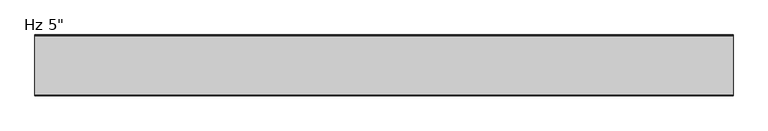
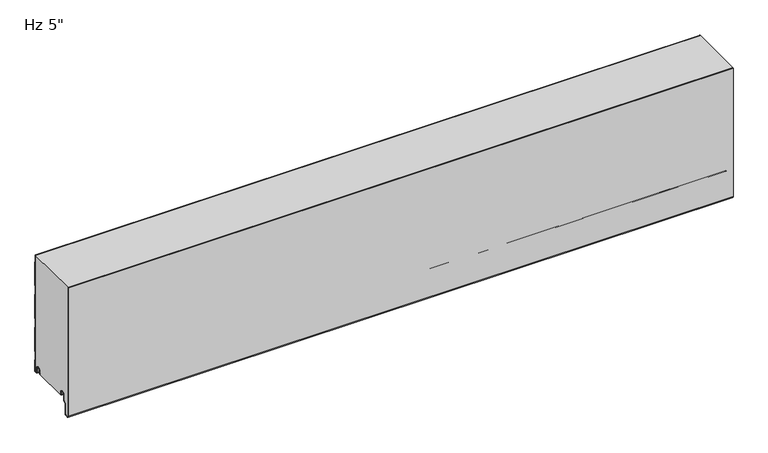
"""IFC4 building model written with IfcOpenShell, lengths in millimetres: plate geometry."""

from ifc_helpers import new_model, si_unit, point, frame, frame_2d, origin, place, context, project, spatial, polyline, circle_curve, trimmed, segment, composite_curve, outline, extrude, source, transform, mapped, element, save
from ifc_brep_helpers import plane_surface, cylinder_surface, revolved_surface, advanced_brep


def plate_4ed21dd5(model_context):
    return source(origin(), model_context, "Body", "SolidModel", [
        advanced_brep(
        [(-730.0, -17.0015159, 2.0313088), (-730.0, -18.0015191, 1.0313116), (-730.0, -19.0015105, 2.0313088), (-730.0, -19.0015105, 6.0315125), (-730.0, -18.0015159, 6.0315125), (-730.0, -18.0015159, 8.7237223), (-730.0, -14.7015202, 12.023718), (-730.0, -10.301529, 12.023718), (-730.0, -7.0015335, 8.7237225), (-730.0, -7.0015335, -1.6962564), (-730.0, -5.2315393, -3.4662506), (-730.0, -0.9999916, -3.4662506), (-730.0, -0.9999916, 21.034026), (-730.0, -2.2002307, 22.4196686), (-730.0, -2.2002307, 41.7948349), (-730.0, -1.0, 43.1804679), (-730.0, -1.0, 97.2338833), (-730.0, -2.2002307, 98.6195162), (-730.0, -2.2002307, 117.9946825), (-730.0, -1.0, 119.3803155), (-730.0, -1.0, 173.4337309), (-730.0, -2.2002307, 174.8193638), (-730.0, -2.2002307, 194.1945301), (-730.0, -1.0, 195.5801631), (-730.0, -1.0, 249.6335785), (-730.0, -2.2002307, 251.0192114), (-730.0, -2.2002307, 266.4), (-730.0, -1.2002307, 266.4), (-730.0, -1.2002307, 251.3920919), (-730.0, -0.3417885, 250.4010442), (-730.0, 0.0, 249.4844273), (-730.0, 0.0, 195.7293142), (-730.0, -0.3417885, 194.8126973), (-730.0, -1.2002307, 193.8216497), (-730.0, -1.2002307, 175.1922443), (-730.0, -0.3417885, 174.2011966), (-730.0, 0.0, 173.2845797), (-730.0, 0.0, 119.5294666), (-730.0, -0.3417885, 118.6128497), (-730.0, -1.2002307, 117.6218021), (-730.0, -1.2002307, 98.9923967), (-730.0, -0.3417885, 98.001349), (-730.0, 0.0, 97.0847321), (-730.0, 0.0, 43.329619), (-730.0, -0.3417885, 42.4130021), (-730.0, -1.2002307, 41.4219545), (-730.0, -1.2002307, 22.7925491), (-730.0, -0.3417885, 21.8015014), (-730.0, 0.0, 20.8847931), (-730.0, 8.4e-06, -3.0662545), (-730.0, -1.3999878, -4.4662506), (-730.0, -5.2315393, -4.4662506), (-730.0, -8.0015335, -1.6962564), (-730.0, -8.0015335, 8.7237225), (-730.0, -10.301529, 11.023718), (-730.0, -14.7015202, 11.023718), (-730.0, -17.0015159, 8.7237223), (730.0, -17.0015159, 2.0313088), (730.0, -17.0015159, 8.7237223), (730.0, -14.7015202, 11.023718), (730.0, -10.301529, 11.023718), (730.0, -8.0015335, 8.7237225), (730.0, -8.0015335, -1.6962564), (730.0, -5.2315393, -4.4662506), (730.0, -1.3999878, -4.4662506), (730.0, 8.4e-06, -3.0662545), (730.0, 8.4e-06, 20.8848845), (730.0, -0.3417885, 21.8015014), (730.0, -1.2002307, 22.7925491), (730.0, -1.2002307, 41.4219545), (730.0, -0.3417885, 42.4130021), (730.0, 0.0, 43.329619), (730.0, 0.0, 97.0847321), (730.0, -0.3417885, 98.001349), (730.0, -1.2002307, 98.9923967), (730.0, -1.2002307, 117.6218021), (730.0, -0.3417885, 118.6128497), (730.0, 0.0, 119.5294666), (730.0, 0.0, 173.2845797), (730.0, -0.3417885, 174.2011966), (730.0, -1.2002307, 175.1922443), (730.0, -1.2002307, 193.8216497), (730.0, -0.3417885, 194.8126973), (730.0, 0.0, 195.7293142), (730.0, 0.0, 249.4844273), (730.0, -0.3417885, 250.4010442), (730.0, -1.2002307, 251.3920919), (730.0, -1.2002307, 266.4), (730.0, -2.2002307, 266.4), (730.0, -2.2002307, 251.0192114), (730.0, -1.0, 249.6335785), (730.0, -1.0, 195.5801631), (730.0, -2.2002307, 194.1945301), (730.0, -2.2002307, 174.8193638), (730.0, -1.0, 173.4337309), (730.0, -1.0, 119.3803155), (730.0, -2.2002307, 117.9946825), (730.0, -2.2002307, 98.6195162), (730.0, -1.0, 97.2338833), (730.0, -1.0, 43.1804679), (730.0, -2.2002307, 41.7948349), (730.0, -2.2002307, 22.4196686), (730.0, -0.9999916, 21.034026), (730.0, -0.9999916, -3.4662506), (730.0, -5.2315393, -3.4662506), (730.0, -7.0015335, -1.6962564), (730.0, -7.0015335, 8.7237225), (730.0, -10.301529, 12.023718), (730.0, -14.7015202, 12.023718), (730.0, -18.0015159, 8.7237223), (730.0, -18.0015159, 6.0315125), (730.0, -19.0015105, 6.0315125), (730.0, -19.0015105, 2.0313088), (730.0, -18.0015192, 1.0313116)],
        [
            (0, 1, circle_curve(frame((-730.0, -18.0015132, 2.0313088), z_axis=(-1.0, 0.0, 0.0), x_axis=(0.0, 0.0, 1.0)), 0.9999973)),
            (1, 2, circle_curve(frame((-730.0, -18.0015133, 2.0313088), z_axis=(-1.0, 0.0, 0.0), x_axis=(0.0, 0.0, 1.0)), 0.9999972)),
            (2, 3),
            (3, 4),
            (4, 5),
            (5, 6, circle_curve(frame((-730.0, -14.7015202, 8.7237223), z_axis=(-1.0, 0.0, 0.0), x_axis=(0.0, 0.0, 1.0)), 3.2999957)),
            (6, 7),
            (7, 8, circle_curve(frame((-730.0, -10.301529, 8.7237225), z_axis=(-1.0, 0.0, 0.0), x_axis=(0.0, 0.0, 1.0)), 3.2999955)),
            (8, 9),
            (9, 10, circle_curve(frame((-730.0, -5.2315393, -1.6962564), z_axis=(1.0, 0.0, 0.0), x_axis=(0.0, 0.0, 1.0)), 1.7699942)),
            (10, 11),
            (11, 12),
            (12, 13),
            (13, 14),
            (14, 15),
            (15, 16),
            (16, 17),
            (17, 18),
            (18, 19),
            (19, 20),
            (20, 21),
            (21, 22),
            (22, 23),
            (23, 24),
            (24, 25),
            (25, 26),
            (26, 27),
            (27, 28),
            (28, 29),
            (29, 30, circle_curve(frame((-730.0, -1.3999972, 249.4844273), z_axis=(-1.0, 0.0, 0.0), x_axis=(0.0, 0.0, 1.0)), 1.3999972)),
            (30, 31),
            (31, 32, circle_curve(frame((-730.0, -1.3999972, 195.7293142), z_axis=(-1.0, 0.0, 0.0), x_axis=(0.0, 0.0, 1.0)), 1.3999972)),
            (32, 33),
            (33, 34),
            (34, 35),
            (35, 36, circle_curve(frame((-730.0, -1.3999972, 173.2845797), z_axis=(-1.0, 0.0, 0.0), x_axis=(0.0, 0.0, 1.0)), 1.3999972)),
            (36, 37),
            (37, 38, circle_curve(frame((-730.0, -1.3999972, 119.5294666), z_axis=(-1.0, 0.0, 0.0), x_axis=(0.0, 0.0, 1.0)), 1.3999972)),
            (38, 39),
            (39, 40),
            (40, 41),
            (41, 42, circle_curve(frame((-730.0, -1.3999972, 97.0847321), z_axis=(-1.0, 0.0, 0.0), x_axis=(0.0, 0.0, 1.0)), 1.3999972)),
            (42, 43),
            (43, 44, circle_curve(frame((-730.0, -1.3999972, 43.329619), z_axis=(-1.0, 0.0, 0.0), x_axis=(0.0, 0.0, 1.0)), 1.3999972)),
            (44, 45),
            (45, 46),
            (46, 47),
            (47, 48, circle_curve(frame((-730.0, -1.3999972, 20.8848845), z_axis=(-1.0, 0.0, 0.0), x_axis=(0.0, 0.0, 1.0)), 1.3999972)),
            (48, 49),
            (49, 50, circle_curve(frame((-730.0, -1.3999878, -3.0662545), z_axis=(-1.0, 0.0, 0.0), x_axis=(0.0, 0.0, 1.0)), 1.3999962)),
            (50, 51),
            (51, 52, circle_curve(frame((-730.0, -5.2315393, -1.6962564), z_axis=(-1.0, 0.0, 0.0), x_axis=(0.0, 0.0, 1.0)), 2.7699942)),
            (52, 53),
            (53, 54, circle_curve(frame((-730.0, -10.301529, 8.7237225), z_axis=(1.0, 0.0, 0.0), x_axis=(0.0, 0.0, 1.0)), 2.2999955)),
            (54, 55),
            (55, 56, circle_curve(frame((-730.0, -14.7015202, 8.7237223), z_axis=(1.0, 0.0, 0.0), x_axis=(0.0, 0.0, 1.0)), 2.2999957)),
            (56, 0),
            (57, 58),
            (58, 59, circle_curve(frame((730.0, -14.7015202, 8.7237223), z_axis=(-1.0, 0.0, 0.0), x_axis=(0.0, 0.0, 1.0)), 2.2999957)),
            (59, 60),
            (60, 61, circle_curve(frame((730.0, -10.301529, 8.7237225), z_axis=(-1.0, 0.0, 0.0), x_axis=(0.0, 0.0, 1.0)), 2.2999955)),
            (61, 62),
            (62, 63, circle_curve(frame((730.0, -5.2315393, -1.6962564), z_axis=(1.0, 0.0, 0.0), x_axis=(0.0, 0.0, 1.0)), 2.7699942)),
            (63, 64),
            (64, 65, circle_curve(frame((730.0, -1.3999878, -3.0662545), z_axis=(1.0, 0.0, 0.0), x_axis=(0.0, 0.0, 1.0)), 1.3999962)),
            (65, 66),
            (66, 67, circle_curve(frame((730.0, -1.3999972, 20.8848845), z_axis=(1.0, 0.0, 0.0), x_axis=(0.0, 0.0, 1.0)), 1.3999972)),
            (67, 68),
            (68, 69),
            (69, 70),
            (70, 71, circle_curve(frame((730.0, -1.3999972, 43.329619), z_axis=(1.0, 0.0, 0.0), x_axis=(0.0, 0.0, 1.0)), 1.3999972)),
            (71, 72),
            (72, 73, circle_curve(frame((730.0, -1.3999972, 97.0847321), z_axis=(1.0, 0.0, 0.0), x_axis=(0.0, 0.0, 1.0)), 1.3999972)),
            (73, 74),
            (74, 75),
            (75, 76),
            (76, 77, circle_curve(frame((730.0, -1.3999972, 119.5294666), z_axis=(1.0, 0.0, 0.0), x_axis=(0.0, 0.0, 1.0)), 1.3999972)),
            (77, 78),
            (78, 79, circle_curve(frame((730.0, -1.3999972, 173.2845797), z_axis=(1.0, 0.0, 0.0), x_axis=(0.0, 0.0, 1.0)), 1.3999972)),
            (79, 80),
            (80, 81),
            (81, 82),
            (82, 83, circle_curve(frame((730.0, -1.3999972, 195.7293142), z_axis=(1.0, 0.0, 0.0), x_axis=(0.0, 0.0, 1.0)), 1.3999972)),
            (83, 84),
            (84, 85, circle_curve(frame((730.0, -1.3999972, 249.4844273), z_axis=(1.0, 0.0, 0.0), x_axis=(0.0, 0.0, 1.0)), 1.3999972)),
            (85, 86),
            (86, 87),
            (87, 88),
            (88, 89),
            (89, 90),
            (90, 91),
            (91, 92),
            (92, 93),
            (93, 94),
            (94, 95),
            (95, 96),
            (96, 97),
            (97, 98),
            (98, 99),
            (99, 100),
            (100, 101),
            (101, 102),
            (102, 103),
            (103, 104),
            (104, 105, circle_curve(frame((730.0, -5.2315393, -1.6962564), z_axis=(-1.0, 0.0, 0.0), x_axis=(0.0, 0.0, 1.0)), 1.7699942)),
            (105, 106),
            (106, 107, circle_curve(frame((730.0, -10.301529, 8.7237225), z_axis=(1.0, 0.0, 0.0), x_axis=(0.0, 0.0, 1.0)), 3.2999955)),
            (107, 108),
            (108, 109, circle_curve(frame((730.0, -14.7015202, 8.7237223), z_axis=(1.0, 0.0, 0.0), x_axis=(0.0, 0.0, 1.0)), 3.2999957)),
            (109, 110),
            (110, 111),
            (111, 112),
            (112, 113, circle_curve(frame((730.0, -18.0015133, 2.0313088), z_axis=(1.0, 0.0, 0.0), x_axis=(0.0, 0.0, 1.0)), 0.9999972)),
            (113, 57, circle_curve(frame((730.0, -18.0015132, 2.0313088), z_axis=(1.0, 0.0, 0.0), x_axis=(0.0, 0.0, 1.0)), 0.9999973)),
            (26, 88),
            (87, 27),
            (56, 58),
            (57, 0),
            (55, 59),
            (54, 60),
            (53, 61),
            (52, 62),
            (51, 63),
            (50, 64),
            (49, 65),
            (48, 66),
            (47, 67),
            (46, 68),
            (45, 69),
            (44, 70),
            (43, 71),
            (42, 72),
            (41, 73),
            (40, 74),
            (39, 75),
            (38, 76),
            (37, 77),
            (36, 78),
            (19, 95),
            (94, 20),
            (18, 96),
            (17, 97),
            (16, 98),
            (15, 99),
            (14, 100),
            (13, 101),
            (12, 102),
            (11, 103),
            (10, 104),
            (9, 105),
            (8, 106),
            (7, 107),
            (6, 108),
            (5, 109),
            (4, 110),
            (3, 111),
            (2, 112),
            (1, 113),
            (35, 79),
            (34, 80),
            (33, 81),
            (32, 82),
            (31, 83),
            (30, 84),
            (29, 85),
            (28, 86),
            (25, 89),
            (24, 90),
            (23, 91),
            (22, 92),
            (21, 93),
        ],
        [
            plane_surface(frame((-730.0, 0.0, 533.4), z_axis=(-1.0, 0.0, 0.0), x_axis=(0.0, 1.0, 0.0))),
            plane_surface(frame((730.0, 0.0, 533.4), z_axis=(1.0, 0.0, 0.0), x_axis=(0.0, 1.0, 0.0))),
            plane_surface(frame((730.0, 10.0, 266.4), z_axis=(0.0, 0.0, 1.0), x_axis=(-1.0, 0.0, 0.0))),
            plane_surface(frame((-730.0, -17.0015159, 2.0313088), z_axis=(0.0, 1.0, 0.0), x_axis=(1.0, 0.0, 0.0))),
            revolved_surface(polyline([(730.0, -14.7015202, 11.023718), (-730.0, -14.7015202, 11.023718)]), (-730.0, -14.7015202, 8.7237223), (1.0, 0.0, 0.0)),
            plane_surface(frame((-730.0, -14.7015202, 11.023718), z_axis=(0.0, 0.0, -1.0), x_axis=(1.0, 0.0, 0.0))),
            revolved_surface(polyline([(730.0, -10.301529, 11.023717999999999), (-730.0, -10.301529, 11.023717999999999)]), (-730.0, -10.301529, 8.7237225), (1.0, 0.0, 0.0)),
            plane_surface(frame((-730.0, -8.0015335, 8.7237225), z_axis=(0.0, -1.0, 0.0), x_axis=(1.0, 0.0, 0.0))),
            cylinder_surface(frame((-730.0, -5.2315393, -1.6962564), z_axis=(-1.0, 0.0, 0.0), x_axis=(0.0, 0.0, 1.0)), 2.7699942),
            plane_surface(frame((-730.0, -5.2315393, -4.4662506), z_axis=(0.0, 0.0, -1.0), x_axis=(1.0, 0.0, 0.0))),
            cylinder_surface(frame((-730.0, -1.3999878, -3.0662545), z_axis=(-1.0, 0.0, 0.0), x_axis=(0.0, 0.0, 1.0)), 1.3999962),
            plane_surface(frame((-730.0, 8.4e-06, -3.0662545), z_axis=(0.0, 1.0, 0.0), x_axis=(1.0, 0.0, 0.0))),
            cylinder_surface(frame((-730.0, -1.3999972, 20.8848845), z_axis=(-1.0, 0.0, 0.0), x_axis=(0.0, 0.0, 1.0)), 1.3999972),
            plane_surface(frame((-730.0, -0.3417885, 21.8015014), z_axis=(0.0, 0.755864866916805, 0.6547276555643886), x_axis=(1.0, 0.0, 0.0))),
            plane_surface(frame((-730.0, -1.2002307, 32.1072518), z_axis=(0.0, 1.0, 0.0), x_axis=(1.0, 0.0, 0.0))),
            plane_surface(frame((-730.0, -1.2002307, 41.4219545), z_axis=(0.0, 0.755864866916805, -0.6547276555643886), x_axis=(1.0, 0.0, 0.0))),
            cylinder_surface(frame((-730.0, -1.3999972, 43.329619), z_axis=(-1.0, 0.0, 0.0), x_axis=(0.0, 0.0, 1.0)), 1.3999972),
            plane_surface(frame((-730.0, 0.0, 43.329619), z_axis=(0.0, 1.0, 0.0), x_axis=(1.0, 0.0, 0.0))),
            cylinder_surface(frame((-730.0, -1.3999972, 97.0847321), z_axis=(-1.0, 0.0, 0.0), x_axis=(0.0, 0.0, 1.0)), 1.3999972),
            plane_surface(frame((-730.0, -0.3417885, 98.001349), z_axis=(0.0, 0.755864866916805, 0.6547276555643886), x_axis=(1.0, 0.0, 0.0))),
            plane_surface(frame((-730.0, -1.2002307, 108.3070994), z_axis=(0.0, 1.0, 0.0), x_axis=(1.0, 0.0, 0.0))),
            plane_surface(frame((-730.0, -1.2002307, 117.6218021), z_axis=(0.0, 0.755864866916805, -0.6547276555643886), x_axis=(1.0, 0.0, 0.0))),
            cylinder_surface(frame((-730.0, -1.3999972, 119.5294666), z_axis=(-1.0, 0.0, 0.0), x_axis=(0.0, 0.0, 1.0)), 1.3999972),
            plane_surface(frame((-730.0, 0.0, 119.5294666), z_axis=(0.0, 1.0, 0.0), x_axis=(1.0, 0.0, 0.0))),
            plane_surface(frame((-730.0, -1.0, 173.4337309), z_axis=(0.0, -1.0, 0.0), x_axis=(1.0, 0.0, 0.0))),
            plane_surface(frame((-730.0, -1.0, 119.3803155), z_axis=(0.0, -0.755864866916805, 0.6547276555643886), x_axis=(1.0, 0.0, 0.0))),
            plane_surface(frame((-730.0, -2.2002307, 117.9946825), z_axis=(0.0, -1.0, 0.0), x_axis=(1.0, 0.0, 0.0))),
            plane_surface(frame((-730.0, -2.2002307, 98.6195162), z_axis=(0.0, -0.755864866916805, -0.6547276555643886), x_axis=(1.0, 0.0, 0.0))),
            plane_surface(frame((-730.0, -1.0, 97.2338833), z_axis=(0.0, -1.0, 0.0), x_axis=(1.0, 0.0, 0.0))),
            plane_surface(frame((-730.0, -1.0, 43.1804679), z_axis=(0.0, -0.755864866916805, 0.6547276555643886), x_axis=(1.0, 0.0, 0.0))),
            plane_surface(frame((-730.0, -2.2002307, 41.7948349), z_axis=(0.0, -1.0, 0.0), x_axis=(1.0, 0.0, 0.0))),
            plane_surface(frame((-730.0, -2.2002307, 22.4196686), z_axis=(0.0, -0.755864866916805, -0.6547276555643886), x_axis=(1.0, 0.0, 0.0))),
            plane_surface(frame((-730.0, -0.9999916, 21.034026), z_axis=(0.0, -1.0, 0.0), x_axis=(1.0, 0.0, 0.0))),
            plane_surface(frame((-730.0, -0.9999916, -3.4662506), z_axis=(0.0, 0.0, 1.0), x_axis=(1.0, 0.0, 0.0))),
            revolved_surface(polyline([(730.0, -5.2315393, 0.07373779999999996), (-730.0, -5.2315393, 0.07373779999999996)]), (-730.0, -5.2315393, -1.6962564), (1.0, 0.0, 0.0)),
            plane_surface(frame((-730.0, -7.0015335, -1.6962564), z_axis=(0.0, 1.0, 0.0), x_axis=(1.0, 0.0, 0.0))),
            cylinder_surface(frame((-730.0, -10.301529, 8.7237225), z_axis=(-1.0, 0.0, 0.0), x_axis=(0.0, 0.0, 1.0)), 3.2999955),
            plane_surface(frame((-730.0, -10.301529, 12.023718), z_axis=(0.0, 0.0, 1.0), x_axis=(1.0, 0.0, 0.0))),
            cylinder_surface(frame((-730.0, -14.7015202, 8.7237223), z_axis=(-1.0, 0.0, 0.0), x_axis=(0.0, 0.0, 1.0)), 3.2999957),
            plane_surface(frame((-730.0, -18.0015159, 8.7237223), z_axis=(0.0, -1.0, 0.0), x_axis=(1.0, 0.0, 0.0))),
            plane_surface(frame((-730.0, -18.0015159, 6.0315125), z_axis=(0.0, 0.0, 1.0), x_axis=(1.0, 0.0, 0.0))),
            plane_surface(frame((-730.0, -19.0015105, 6.0315125), z_axis=(0.0, -1.0, 0.0), x_axis=(1.0, 0.0, 0.0))),
            cylinder_surface(frame((-730.0, -18.0015133, 2.0313088), z_axis=(-1.0, 0.0, 0.0), x_axis=(0.0, 0.0, 1.0)), 0.9999972),
            cylinder_surface(frame((-730.0, -18.0015132, 2.0313088), z_axis=(-1.0, 0.0, 0.0), x_axis=(0.0, 0.0, 1.0)), 0.9999973),
            cylinder_surface(frame((-730.0, -1.3999972, 173.2845797), z_axis=(-1.0, 0.0, 0.0), x_axis=(0.0, 0.0, 1.0)), 1.3999972),
            plane_surface(frame((-730.0, -0.3417885, 174.2011966), z_axis=(0.0, 0.755864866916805, 0.6547276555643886), x_axis=(1.0, 0.0, 0.0))),
            plane_surface(frame((-730.0, -1.2002307, 184.506947), z_axis=(0.0, 1.0, 0.0), x_axis=(1.0, 0.0, 0.0))),
            plane_surface(frame((-730.0, -1.2002307, 193.8216497), z_axis=(0.0, 0.755864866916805, -0.6547276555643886), x_axis=(1.0, 0.0, 0.0))),
            cylinder_surface(frame((-730.0, -1.3999972, 195.7293142), z_axis=(-1.0, 0.0, 0.0), x_axis=(0.0, 0.0, 1.0)), 1.3999972),
            plane_surface(frame((-730.0, 0.0, 195.7293142), z_axis=(0.0, 1.0, 0.0), x_axis=(1.0, 0.0, 0.0))),
            cylinder_surface(frame((-730.0, -1.3999972, 249.4844273), z_axis=(-1.0, 0.0, 0.0), x_axis=(0.0, 0.0, 1.0)), 1.3999972),
            plane_surface(frame((-730.0, -0.3417885, 250.4010442), z_axis=(0.0, 0.755864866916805, 0.6547276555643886), x_axis=(1.0, 0.0, 0.0))),
            plane_surface(frame((-730.0, -1.2002307, 260.7067946), z_axis=(0.0, 1.0, 0.0), x_axis=(1.0, 0.0, 0.0))),
            plane_surface(frame((-730.0, -2.2002307, 270.3943777), z_axis=(0.0, -1.0, 0.0), x_axis=(1.0, 0.0, 0.0))),
            plane_surface(frame((-730.0, -2.2002307, 251.0192114), z_axis=(0.0, -0.755864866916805, -0.6547276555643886), x_axis=(1.0, 0.0, 0.0))),
            plane_surface(frame((-730.0, -1.0, 249.6335785), z_axis=(0.0, -1.0, 0.0), x_axis=(1.0, 0.0, 0.0))),
            plane_surface(frame((-730.0, -1.0, 195.5801631), z_axis=(0.0, -0.755864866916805, 0.6547276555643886), x_axis=(1.0, 0.0, 0.0))),
            plane_surface(frame((-730.0, -2.2002307, 194.1945301), z_axis=(0.0, -1.0, 0.0), x_axis=(1.0, 0.0, 0.0))),
            plane_surface(frame((-730.0, -2.2002307, 174.8193638), z_axis=(0.0, -0.755864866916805, -0.6547276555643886), x_axis=(1.0, 0.0, 0.0))),
        ],
        [
            (0, [[1, 2, 3, 4, 5, 6, 7, 8, 9, 10, 11, 12, 13, 14, 15, 16, 17, 18, 19, 20, 21, 22, 23, 24, 25, 26, 27, 28, 29, 30, 31, 32, 33, 34, 35, 36, 37, 38, 39, 40, 41, 42, 43, 44, 45, 46, 47, 48, 49, 50, 51, 52, 53, 54, 55, 56, 57]]),
            (1, [[58, 59, 60, 61, 62, 63, 64, 65, 66, 67, 68, 69, 70, 71, 72, 73, 74, 75, 76, 77, 78, 79, 80, 81, 82, 83, 84, 85, 86, 87, 88, 89, 90, 91, 92, 93, 94, 95, 96, 97, 98, 99, 100, 101, 102, 103, 104, 105, 106, 107, 108, 109, 110, 111, 112, 113, 114]]),
            (2, [[115, -88, 116, -27]]),
            (3, [[117, -58, 118, -57]]),
            (4, [[119, -59, -117, -56]]),
            (5, [[120, -60, -119, -55]]),
            (6, [[121, -61, -120, -54]]),
            (7, [[122, -62, -121, -53]]),
            (8, [[123, -63, -122, -52]]),
            (9, [[124, -64, -123, -51]]),
            (10, [[125, -65, -124, -50]]),
            (11, [[126, -66, -125, -49]]),
            (12, [[127, -67, -126, -48]]),
            (13, [[128, -68, -127, -47]]),
            (14, [[129, -69, -128, -46]]),
            (15, [[130, -70, -129, -45]]),
            (16, [[131, -71, -130, -44]]),
            (17, [[132, -72, -131, -43]]),
            (18, [[133, -73, -132, -42]]),
            (19, [[134, -74, -133, -41]]),
            (20, [[135, -75, -134, -40]]),
            (21, [[136, -76, -135, -39]]),
            (22, [[137, -77, -136, -38]]),
            (23, [[138, -78, -137, -37]]),
            (24, [[139, -95, 140, -20]]),
            (25, [[141, -96, -139, -19]]),
            (26, [[142, -97, -141, -18]]),
            (27, [[143, -98, -142, -17]]),
            (28, [[144, -99, -143, -16]]),
            (29, [[145, -100, -144, -15]]),
            (30, [[146, -101, -145, -14]]),
            (31, [[147, -102, -146, -13]]),
            (32, [[148, -103, -147, -12]]),
            (33, [[149, -104, -148, -11]]),
            (34, [[150, -105, -149, -10]]),
            (35, [[151, -106, -150, -9]]),
            (36, [[152, -107, -151, -8]]),
            (37, [[153, -108, -152, -7]]),
            (38, [[154, -109, -153, -6]]),
            (39, [[155, -110, -154, -5]]),
            (40, [[156, -111, -155, -4]]),
            (41, [[157, -112, -156, -3]]),
            (42, [[158, -113, -157, -2]]),
            (43, [[-118, -114, -158, -1]]),
            (44, [[159, -79, -138, -36]]),
            (45, [[160, -80, -159, -35]]),
            (46, [[161, -81, -160, -34]]),
            (47, [[162, -82, -161, -33]]),
            (48, [[163, -83, -162, -32]]),
            (49, [[164, -84, -163, -31]]),
            (50, [[165, -85, -164, -30]]),
            (51, [[166, -86, -165, -29]]),
            (52, [[-28, -116, -87, -166]]),
            (53, [[-89, -115, -26, 167]]),
            (54, [[168, -90, -167, -25]]),
            (55, [[169, -91, -168, -24]]),
            (56, [[170, -92, -169, -23]]),
            (57, [[171, -93, -170, -22]]),
            (58, [[-140, -94, -171, -21]]),
        ],
    ),
        extrude(outline(composite_curve([segment(trimmed(circle_curve(frame_2d((-123.4304001, -32.4521176)), 3.5702393), [point((-123.1191297, -36.008762))], [point((-127.0, -32.5196853))], False, "CARTESIAN"), True, "CONTINUOUS"), segment(polyline([(-127.0, -32.5196853), (-127.0, 266.4), (-126.0, 266.4), (-126.0, -32.509446)]), True, "CONTINUOUS"), segment(trimmed(circle_curve(frame_2d((-123.4304001, -32.4521176)), 2.5702393), [point((-126.0, -32.509446))], [point((-123.2063145, -35.0125699))], True, "CARTESIAN"), True, "CONTINUOUS"), segment(polyline([(-123.2063145, -35.0125699), (-118.2244936, -34.5765709)]), True, "CONTINUOUS"), segment(trimmed(circle_curve(frame_2d((-118.7058842, -31.9198392)), 2.6999926), [point((-118.2244936, -34.5765709))], [point((-116.0058916, -31.9198392))], True, "CARTESIAN"), True, "CONTINUOUS"), segment(polyline([(-116.0058916, -31.9198392), (-116.0058916, -9.8247096), (-110.5038205, -4.3226385)]), True, "CONTINUOUS"), segment(trimmed(circle_curve(frame_2d((-111.7058982, -3.1205608)), 1.6999946), [point((-110.5038205, -4.3226385))], [point((-110.0059036, -3.1205608))], True, "CARTESIAN"), True, "CONTINUOUS"), segment(polyline([(-110.0059036, -3.1205608), (-110.0059036, 8.6903283)]), True, "CONTINUOUS"), segment(trimmed(circle_curve(frame_2d((-106.6559083, 8.6903283)), 3.3499953), [point((-110.0059036, 8.6903283))], [point((-106.6559083, 12.0403236))], False, "CARTESIAN"), True, "CONTINUOUS"), segment(polyline([(-106.6559083, 12.0403236), (-102.2559171, 12.0403236)]), True, "CONTINUOUS"), segment(trimmed(circle_curve(frame_2d((-102.2559171, 8.6903283)), 3.3499953), [point((-102.2559171, 12.0403236))], [point((-98.9059218, 8.6903283))], False, "CARTESIAN"), True, "CONTINUOUS"), segment(polyline([(-98.9059218, 8.6903283), (-98.9059218, 5.9912173), (-97.5074429, 5.9912173), (-97.5074429, 2.2328239)]), True, "CONTINUOUS"), segment(trimmed(circle_curve(frame_2d((-98.7074396, 2.2313092)), 1.1999976), [point((-97.5074429, 2.2328239))], [point((-98.6769177, 1.0316999))], False, "CARTESIAN"), True, "CONTINUOUS"), segment(trimmed(circle_curve(frame_2d((-98.7074396, 2.2313092)), 1.1999976), [point((-98.6769177, 1.0316999))], [point((-99.9059218, 2.1710221))], False, "CARTESIAN"), True, "CONTINUOUS"), segment(polyline([(-99.9059218, 2.1710221), (-99.9059218, 8.6903283)]), True, "CONTINUOUS"), segment(trimmed(circle_curve(frame_2d((-102.2559171, 8.6903283)), 2.3499953), [point((-99.9059218, 8.6903283))], [point((-102.2559171, 11.0403236))], True, "CARTESIAN"), True, "CONTINUOUS"), segment(polyline([(-102.2559171, 11.0403236), (-106.6559083, 11.0403236)]), True, "CONTINUOUS"), segment(trimmed(circle_curve(frame_2d((-106.6559083, 8.6903283)), 2.3499953), [point((-106.6559083, 11.0403236))], [point((-109.0059036, 8.6903283))], True, "CARTESIAN"), True, "CONTINUOUS"), segment(polyline([(-109.0059036, 8.6903283), (-109.0059036, -3.1205608)]), True, "CONTINUOUS"), segment(trimmed(circle_curve(frame_2d((-111.7058982, -3.1205608)), 2.6999946), [point((-109.0059036, -3.1205608))], [point((-109.7967137, -5.0297453))], False, "CARTESIAN"), True, "CONTINUOUS"), segment(polyline([(-109.7967137, -5.0297453), (-114.6251312, -9.8581627)]), True, "CONTINUOUS"), segment(trimmed(circle_curve(frame_2d((-113.7058942, -10.7773997)), 1.2999974), [point((-114.6251312, -9.8581627))], [point((-115.0058916, -10.7773997))], True, "CARTESIAN"), True, "CONTINUOUS"), segment(polyline([(-115.0058916, -10.7773997), (-115.0058916, -31.9198392)]), True, "CONTINUOUS"), segment(trimmed(circle_curve(frame_2d((-118.7058842, -31.9198392)), 3.6999926), [point((-115.0058916, -31.9198392))], [point((-118.0950831, -35.5690675))], False, "CARTESIAN"), True, "CONTINUOUS"), segment(polyline([(-118.0950831, -35.5690675), (-123.1191297, -36.008762)]), True, "CONTINUOUS")], self_intersect=False)), frame((-730.0, 0.0, 0.0), z_axis=(1.0, 0.0, 0.0), x_axis=(0.0, 1.0, 0.0)), (0.0, 0.0, 1.0), 1460.0),
        advanced_brep(
        [(-730.0, -98.670875, 1.0316999), (-730.0, -97.5014003, 2.2328239), (-730.0, -97.5014003, 5.9912173), (-730.0, -98.8998791, 5.9912173), (-730.0, -98.8998791, 8.6903283), (-730.0, -102.2498744, 12.0403236), (-730.0, -106.6498656, 12.0403236), (-730.0, -109.9998609, 8.6903283), (-730.0, -109.9998609, -3.1205608), (-730.0, -110.4977778, -4.3226385), (-730.0, -115.9998489, -9.8247096), (-730.0, -115.9998489, -31.9198392), (-730.0, -118.2184509, -34.5765709), (-730.0, -123.2002718, -35.0125699), (-730.0, -125.9945967, -32.4521176), (-730.0, -126.0, 266.4), (-730.0, -2.2002307, 266.4), (-730.0, -2.2002307, 251.0192115), (-730.0, -1.0, 249.6335785), (-730.0, -1.0, 195.5801631), (-730.0, -2.2002307, 194.1945302), (-730.0, -2.2002307, 174.8193639), (-730.0, -1.0, 173.4337309), (-730.0, -1.0, 119.3803155), (-730.0, -2.2002307, 117.9946826), (-730.0, -2.2002307, 98.6195163), (-730.0, -1.0, 97.2338833), (-730.0, -1.0, 43.1804679), (-730.0, -2.2002307, 41.794835), (-730.0, -2.2002307, 22.4196687), (-730.0, -0.9999916, 21.034026), (-730.0, -0.9999916, -3.4662506), (-730.0, -5.2315389, -3.4662506), (-730.0, -7.0015331, -1.6962564), (-730.0, -7.0015331, 8.7237222), (-730.0, -10.301529, 12.023718), (-730.0, -14.7015202, 12.023718), (-730.0, -18.0015159, 8.7237223), (-730.0, -18.0015159, 6.0315125), (-730.0, -19.0015105, 6.0315125), (-730.0, -19.0015105, 2.0313089), (-730.0, -18.0015192, 1.0313117), (-730.0, -19.0328308, 0.0), (-730.0, -97.6391751, 0.0), (730.0, -98.670875, 1.0316999), (730.0, -97.6391751, 0.0), (730.0, -19.0328308, 0.0), (730.0, -18.0015192, 1.0313117), (730.0, -19.0015105, 2.0313089), (730.0, -19.0015105, 6.0315125), (730.0, -18.0015159, 6.0315125), (730.0, -18.0015159, 8.7237223), (730.0, -14.7015202, 12.023718), (730.0, -10.301529, 12.023718), (730.0, -7.0015331, 8.7237222), (730.0, -7.0015331, -1.6962564), (730.0, -5.2315389, -3.4662506), (730.0, -0.9999916, -3.4662506), (730.0, -0.9999916, 21.034026), (730.0, -2.2002307, 22.4196687), (730.0, -2.2002307, 41.794835), (730.0, -1.0, 43.1804679), (730.0, -1.0, 97.2338833), (730.0, -2.2002307, 98.6195163), (730.0, -2.2002307, 117.9946826), (730.0, -1.0, 119.3803155), (730.0, -1.0, 173.4337309), (730.0, -2.2002307, 174.8193639), (730.0, -2.2002307, 194.1945302), (730.0, -1.0, 195.5801631), (730.0, -1.0, 249.6335785), (730.0, -2.2002307, 251.0192115), (730.0, -2.2002307, 266.4), (730.0, -126.0, 266.4), (730.0, -126.0, -32.4521176), (730.0, -123.2002718, -35.0125699), (730.0, -118.2184509, -34.5765709), (730.0, -115.9998489, -31.9198392), (730.0, -115.9998489, -9.8247096), (730.0, -110.4977778, -4.3226385), (730.0, -109.9998609, -3.1205608), (730.0, -109.9998609, 8.6903283), (730.0, -106.6498656, 12.0403236), (730.0, -102.2498744, 12.0403236), (730.0, -98.8998791, 8.6903283), (730.0, -98.8998791, 5.9912173), (730.0, -97.5014003, 5.9912173), (730.0, -97.5014003, 2.2328239)],
        [
            (0, 1, circle_curve(frame((-730.0, -98.7013969, 2.2313092), z_axis=(1.0, 0.0, 0.0), x_axis=(0.0, 0.0, -1.0)), 1.1999976)),
            (1, 2),
            (2, 3),
            (3, 4),
            (4, 5, circle_curve(frame((-730.0, -102.2498744, 8.6903283), z_axis=(1.0, 0.0, 0.0), x_axis=(0.0, 0.0, -1.0)), 3.3499953)),
            (5, 6),
            (6, 7, circle_curve(frame((-730.0, -106.6498656, 8.6903283), z_axis=(1.0, 0.0, 0.0), x_axis=(0.0, 0.0, -1.0)), 3.3499953)),
            (7, 8),
            (8, 9, circle_curve(frame((-730.0, -111.6998555, -3.1205608), z_axis=(-1.0, 0.0, 0.0), x_axis=(0.0, 0.0, -1.0)), 1.6999946)),
            (9, 10),
            (10, 11),
            (11, 12, circle_curve(frame((-730.0, -118.6998415, -31.9198392), z_axis=(-1.0, 0.0, 0.0), x_axis=(0.0, 0.0, -1.0)), 2.6999926)),
            (12, 13),
            (13, 14, circle_curve(frame((-730.0, -123.4243575, -32.4521176), z_axis=(-1.0, 0.0, 0.0), x_axis=(0.0, 0.0, -1.0)), 2.5702393)),
            (14, 15),
            (15, 16),
            (16, 17),
            (17, 18),
            (18, 19),
            (19, 20),
            (20, 21),
            (21, 22),
            (22, 23),
            (23, 24),
            (24, 25),
            (25, 26),
            (26, 27),
            (27, 28),
            (28, 29),
            (29, 30),
            (30, 31),
            (31, 32),
            (32, 33, circle_curve(frame((-730.0, -5.2315389, -1.6962564), z_axis=(-1.0, 0.0, 0.0), x_axis=(0.0, 0.0, -1.0)), 1.7699942)),
            (33, 34),
            (34, 35, circle_curve(frame((-730.0, -10.301529, 8.7237222), z_axis=(1.0, 0.0, 0.0), x_axis=(0.0, 0.0, -1.0)), 3.2999959)),
            (35, 36),
            (36, 37, circle_curve(frame((-730.0, -14.7015202, 8.7237223), z_axis=(1.0, 0.0, 0.0), x_axis=(0.0, 0.0, -1.0)), 3.2999957)),
            (37, 38),
            (38, 39),
            (39, 40),
            (40, 41, circle_curve(frame((-730.0, -18.0015133, 2.0313089), z_axis=(1.0, 0.0, 0.0), x_axis=(0.0, 0.0, -1.0)), 0.9999972)),
            (41, 42),
            (42, 43),
            (43, 0),
            (44, 45),
            (45, 46),
            (46, 47),
            (47, 48, circle_curve(frame((730.0, -18.0015133, 2.0313089), z_axis=(-1.0, 0.0, 0.0), x_axis=(0.0, 0.0, -1.0)), 0.9999972)),
            (48, 49),
            (49, 50),
            (50, 51),
            (51, 52, circle_curve(frame((730.0, -14.7015202, 8.7237223), z_axis=(-1.0, 0.0, 0.0), x_axis=(0.0, 0.0, -1.0)), 3.2999957)),
            (52, 53),
            (53, 54, circle_curve(frame((730.0, -10.301529, 8.7237222), z_axis=(-1.0, 0.0, 0.0), x_axis=(0.0, 0.0, -1.0)), 3.2999959)),
            (54, 55),
            (55, 56, circle_curve(frame((730.0, -5.2315389, -1.6962564), z_axis=(1.0, 0.0, 0.0), x_axis=(0.0, 0.0, -1.0)), 1.7699942)),
            (56, 57),
            (57, 58),
            (58, 59),
            (59, 60),
            (60, 61),
            (61, 62),
            (62, 63),
            (63, 64),
            (64, 65),
            (65, 66),
            (66, 67),
            (67, 68),
            (68, 69),
            (69, 70),
            (70, 71),
            (71, 72),
            (72, 73),
            (73, 74),
            (74, 75, circle_curve(frame((730.0, -123.4243575, -32.4521176), z_axis=(1.0, 0.0, 0.0), x_axis=(0.0, 0.0, -1.0)), 2.5702393)),
            (75, 76),
            (76, 77, circle_curve(frame((730.0, -118.6998415, -31.9198392), z_axis=(1.0, 0.0, 0.0), x_axis=(0.0, 0.0, -1.0)), 2.6999926)),
            (77, 78),
            (78, 79),
            (79, 80, circle_curve(frame((730.0, -111.6998555, -3.1205608), z_axis=(1.0, 0.0, 0.0), x_axis=(0.0, 0.0, -1.0)), 1.6999946)),
            (80, 81),
            (81, 82, circle_curve(frame((730.0, -106.6498656, 8.6903283), z_axis=(-1.0, 0.0, 0.0), x_axis=(0.0, 0.0, -1.0)), 3.3499953)),
            (82, 83),
            (83, 84, circle_curve(frame((730.0, -102.2498744, 8.6903283), z_axis=(-1.0, 0.0, 0.0), x_axis=(0.0, 0.0, -1.0)), 3.3499953)),
            (84, 85),
            (85, 86),
            (86, 87),
            (87, 44, circle_curve(frame((730.0, -98.7013969, 2.2313092), z_axis=(-1.0, 0.0, 0.0), x_axis=(0.0, 0.0, -1.0)), 1.1999976)),
            (15, 73),
            (72, 16),
            (43, 45),
            (44, 0),
            (42, 46),
            (14, 74),
            (13, 75),
            (12, 76),
            (11, 77),
            (10, 78),
            (9, 79),
            (8, 80),
            (7, 81),
            (6, 82),
            (5, 83),
            (4, 84),
            (3, 85),
            (2, 86),
            (1, 87),
            (41, 47),
            (40, 48),
            (39, 49),
            (38, 50),
            (37, 51),
            (36, 52),
            (35, 53),
            (34, 54),
            (33, 55),
            (32, 56),
            (31, 57),
            (30, 58),
            (29, 59),
            (28, 60),
            (27, 61),
            (26, 62),
            (25, 63),
            (24, 64),
            (23, 65),
            (22, 66),
            (21, 67),
            (20, 68),
            (19, 69),
            (18, 70),
            (17, 71),
        ],
        [
            plane_surface(frame((-730.0, -126.0, 533.4), z_axis=(-1.0, 0.0, 0.0), x_axis=(0.0, -1.0, 0.0))),
            plane_surface(frame((730.0, -126.0, 533.4), z_axis=(1.0, 0.0, 0.0), x_axis=(0.0, -1.0, 0.0))),
            plane_surface(frame((730.0, 10.0, 266.4), z_axis=(0.0, 0.0, 1.0), x_axis=(-1.0, 0.0, 0.0))),
            plane_surface(frame((-730.0, -98.670875, 1.0316999), z_axis=(0.0, -0.7071067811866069, -0.7071067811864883), x_axis=(1.0, 0.0, 0.0))),
            plane_surface(frame((-730.0, -97.6391751, 0.0), z_axis=(0.0, 0.0, -1.0), x_axis=(1.0, 0.0, 0.0))),
            plane_surface(frame((-730.0, -126.0, 1018.3156233), z_axis=(0.0, -1.0, 0.0), x_axis=(1.0, 0.0, 0.0))),
            cylinder_surface(frame((-730.0, -123.4243575, -32.4521176), z_axis=(-1.0, 0.0, 0.0), x_axis=(0.0, 0.0, -1.0)), 2.5702393),
            plane_surface(frame((-730.0, -123.2002718, -35.0125699), z_axis=(0.0, 0.08718474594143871, -0.9961921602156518), x_axis=(1.0, 0.0, 0.0))),
            cylinder_surface(frame((-730.0, -118.6998415, -31.9198392), z_axis=(-1.0, 0.0, 0.0), x_axis=(0.0, 0.0, -1.0)), 2.6999926),
            plane_surface(frame((-730.0, -115.9998489, -31.9198392), z_axis=(0.0, 1.0, 0.0), x_axis=(1.0, 0.0, 0.0))),
            plane_surface(frame((-730.0, -115.9998489, -9.8247096), z_axis=(0.0, 0.7071067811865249, -0.7071067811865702), x_axis=(1.0, 0.0, 0.0))),
            cylinder_surface(frame((-730.0, -111.6998555, -3.1205608), z_axis=(-1.0, 0.0, 0.0), x_axis=(0.0, 0.0, -1.0)), 1.6999946),
            plane_surface(frame((-730.0, -109.9998609, -3.1205608), z_axis=(0.0, 1.0, 0.0), x_axis=(1.0, 0.0, 0.0))),
            revolved_surface(polyline([(730.0, -106.6498656, 5.340332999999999), (-730.0, -106.6498656, 5.340332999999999)]), (-730.0, -106.6498656, 8.6903283), (1.0, 0.0, 0.0)),
            plane_surface(frame((-730.0, -106.6498656, 12.0403236), z_axis=(0.0, 0.0, -1.0), x_axis=(1.0, 0.0, 0.0))),
            revolved_surface(polyline([(730.0, -102.2498744, 5.340332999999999), (-730.0, -102.2498744, 5.340332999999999)]), (-730.0, -102.2498744, 8.6903283), (1.0, 0.0, 0.0)),
            plane_surface(frame((-730.0, -98.8998791, 8.6903283), z_axis=(0.0, -1.0, 0.0), x_axis=(1.0, 0.0, 0.0))),
            plane_surface(frame((-730.0, -98.8998791, 5.9912173), z_axis=(0.0, 0.0, -1.0), x_axis=(1.0, 0.0, 0.0))),
            plane_surface(frame((-730.0, -97.5014003, 5.9912173), z_axis=(0.0, -1.0, 0.0), x_axis=(1.0, 0.0, 0.0))),
            revolved_surface(polyline([(730.0, -98.7013969, 1.0313116), (-730.0, -98.7013969, 1.0313116)]), (-730.0, -98.7013969, 2.2313092), (1.0, 0.0, 0.0)),
            plane_surface(frame((-730.0, -19.0328308, 0.0), z_axis=(0.0, 0.7071067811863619, -0.7071067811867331), x_axis=(1.0, 0.0, 0.0))),
            revolved_surface(polyline([(730.0, -18.0015133, 1.0313116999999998), (-730.0, -18.0015133, 1.0313116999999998)]), (-730.0, -18.0015133, 2.0313089), (1.0, 0.0, 0.0)),
            plane_surface(frame((-730.0, -19.0015105, 2.0313089), z_axis=(0.0, 1.0, 0.0), x_axis=(1.0, 0.0, 0.0))),
            plane_surface(frame((-730.0, -19.0015105, 6.0315125), z_axis=(0.0, 0.0, -1.0), x_axis=(1.0, 0.0, 0.0))),
            plane_surface(frame((-730.0, -18.0015159, 6.0315125), z_axis=(0.0, 1.0, 0.0), x_axis=(1.0, 0.0, 0.0))),
            revolved_surface(polyline([(730.0, -14.7015202, 5.4237266), (-730.0, -14.7015202, 5.4237266)]), (-730.0, -14.7015202, 8.7237223), (1.0, 0.0, 0.0)),
            plane_surface(frame((-730.0, -14.7015202, 12.023718), z_axis=(0.0, 0.0, -1.0), x_axis=(1.0, 0.0, 0.0))),
            revolved_surface(polyline([(730.0, -10.301529, 5.423726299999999), (-730.0, -10.301529, 5.423726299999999)]), (-730.0, -10.301529, 8.7237222), (1.0, 0.0, 0.0)),
            plane_surface(frame((-730.0, -7.0015331, 8.7237222), z_axis=(0.0, -1.0, 0.0), x_axis=(1.0, 0.0, 0.0))),
            cylinder_surface(frame((-730.0, -5.2315389, -1.6962564), z_axis=(-1.0, 0.0, 0.0), x_axis=(0.0, 0.0, -1.0)), 1.7699942),
            plane_surface(frame((-730.0, -5.2315389, -3.4662506), z_axis=(0.0, 0.0, -1.0), x_axis=(1.0, 0.0, 0.0))),
            plane_surface(frame((-730.0, -0.9999916, -3.4662506), z_axis=(0.0, 1.0, 0.0), x_axis=(1.0, 0.0, 0.0))),
            plane_surface(frame((-730.0, -0.9999916, 21.034026), z_axis=(0.0, 0.7558648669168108, 0.6547276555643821), x_axis=(1.0, 0.0, 0.0))),
            plane_surface(frame((-730.0, -2.2002307, 22.4196687), z_axis=(0.0, 1.0, 0.0), x_axis=(1.0, 0.0, 0.0))),
            plane_surface(frame((-730.0, -2.2002307, 41.794835), z_axis=(0.0, 0.7558648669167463, -0.6547276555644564), x_axis=(1.0, 0.0, 0.0))),
            plane_surface(frame((-730.0, -1.0, 43.1804679), z_axis=(0.0, 1.0, 0.0), x_axis=(1.0, 0.0, 0.0))),
            plane_surface(frame((-730.0, -1.0, 97.2338833), z_axis=(0.0, 0.7558648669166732, 0.6547276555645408), x_axis=(1.0, 0.0, 0.0))),
            plane_surface(frame((-730.0, -2.2002307, 98.6195163), z_axis=(0.0, 1.0, 0.0), x_axis=(1.0, 0.0, 0.0))),
            plane_surface(frame((-730.0, -2.2002307, 117.9946826), z_axis=(0.0, 0.7558648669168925, -0.6547276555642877), x_axis=(1.0, 0.0, 0.0))),
            plane_surface(frame((-730.0, -1.0, 119.3803155), z_axis=(0.0, 1.0, 0.0), x_axis=(1.0, 0.0, 0.0))),
            plane_surface(frame((-730.0, -1.0, 173.4337309), z_axis=(0.0, 0.7558648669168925, 0.6547276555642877), x_axis=(1.0, 0.0, 0.0))),
            plane_surface(frame((-730.0, -2.2002307, 174.8193639), z_axis=(0.0, 1.0, 0.0), x_axis=(1.0, 0.0, 0.0))),
            plane_surface(frame((-730.0, -2.2002307, 194.1945302), z_axis=(0.0, 0.7558648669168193, -0.6547276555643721), x_axis=(1.0, 0.0, 0.0))),
            plane_surface(frame((-730.0, -1.0, 195.5801631), z_axis=(0.0, 1.0, 0.0), x_axis=(1.0, 0.0, 0.0))),
            plane_surface(frame((-730.0, -1.0, 249.6335785), z_axis=(0.0, 0.7558648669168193, 0.6547276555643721), x_axis=(1.0, 0.0, 0.0))),
            plane_surface(frame((-730.0, -2.2002307, 251.0192115), z_axis=(0.0, 1.0, 0.0), x_axis=(1.0, 0.0, 0.0))),
        ],
        [
            (0, [[1, 2, 3, 4, 5, 6, 7, 8, 9, 10, 11, 12, 13, 14, 15, 16, 17, 18, 19, 20, 21, 22, 23, 24, 25, 26, 27, 28, 29, 30, 31, 32, 33, 34, 35, 36, 37, 38, 39, 40, 41, 42, 43, 44]]),
            (1, [[45, 46, 47, 48, 49, 50, 51, 52, 53, 54, 55, 56, 57, 58, 59, 60, 61, 62, 63, 64, 65, 66, 67, 68, 69, 70, 71, 72, 73, 74, 75, 76, 77, 78, 79, 80, 81, 82, 83, 84, 85, 86, 87, 88]]),
            (2, [[89, -73, 90, -16]]),
            (3, [[91, -45, 92, -44]]),
            (4, [[-43, 93, -46, -91]]),
            (5, [[-74, -89, -15, 94]]),
            (6, [[95, -75, -94, -14]]),
            (7, [[96, -76, -95, -13]]),
            (8, [[97, -77, -96, -12]]),
            (9, [[98, -78, -97, -11]]),
            (10, [[99, -79, -98, -10]]),
            (11, [[100, -80, -99, -9]]),
            (12, [[101, -81, -100, -8]]),
            (13, [[102, -82, -101, -7]]),
            (14, [[103, -83, -102, -6]]),
            (15, [[104, -84, -103, -5]]),
            (16, [[105, -85, -104, -4]]),
            (17, [[106, -86, -105, -3]]),
            (18, [[107, -87, -106, -2]]),
            (19, [[-92, -88, -107, -1]]),
            (20, [[108, -47, -93, -42]]),
            (21, [[109, -48, -108, -41]]),
            (22, [[110, -49, -109, -40]]),
            (23, [[111, -50, -110, -39]]),
            (24, [[112, -51, -111, -38]]),
            (25, [[113, -52, -112, -37]]),
            (26, [[114, -53, -113, -36]]),
            (27, [[115, -54, -114, -35]]),
            (28, [[116, -55, -115, -34]]),
            (29, [[117, -56, -116, -33]]),
            (30, [[118, -57, -117, -32]]),
            (31, [[119, -58, -118, -31]]),
            (32, [[120, -59, -119, -30]]),
            (33, [[121, -60, -120, -29]]),
            (34, [[122, -61, -121, -28]]),
            (35, [[123, -62, -122, -27]]),
            (36, [[124, -63, -123, -26]]),
            (37, [[125, -64, -124, -25]]),
            (38, [[126, -65, -125, -24]]),
            (39, [[127, -66, -126, -23]]),
            (40, [[128, -67, -127, -22]]),
            (41, [[129, -68, -128, -21]]),
            (42, [[130, -69, -129, -20]]),
            (43, [[131, -70, -130, -19]]),
            (44, [[132, -71, -131, -18]]),
            (45, [[-17, -90, -72, -132]]),
        ],
    ),
    ])


if __name__ == "__main__":
    model = new_model("IFC4")
    model_context = context("Model", 3, world=origin())
    ifc_project = project(units=[si_unit("LENGTHUNIT", "METRE", prefix="MILLI")], contexts=[model_context])
    site = spatial("IfcSite", under=ifc_project)
    building = spatial("IfcBuilding", under=site)
    placement = place(None, origin())
    plate_shape = plate_4ed21dd5(model_context)
    element("IfcPlate", 1, ObjectType="KIP-42-Karrier-KP-R19-CP-Hz-FL3-8in_SL : Hz 5\"", at=placement, inside=building, context=model_context, shape_type="MappedRepresentation", body=[
        mapped(plate_shape, transform((0.0, 0.0, 0.0), x_axis=(1.0, 0.0, 0.0), y_axis=(0.0, 1.0, 0.0), z_axis=(0.0, 0.0, 1.0))),
    ])
    save(model, "model.ifc")
